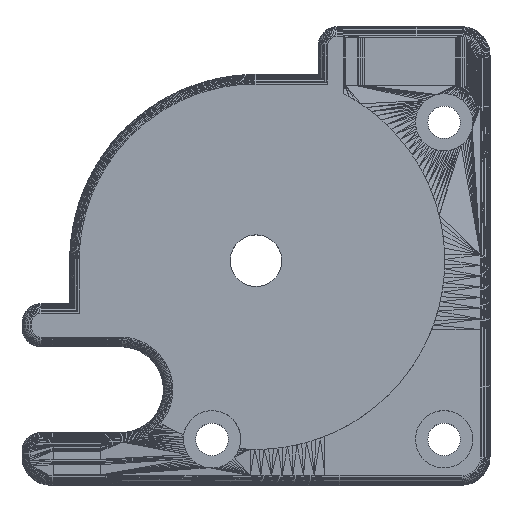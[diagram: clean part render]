
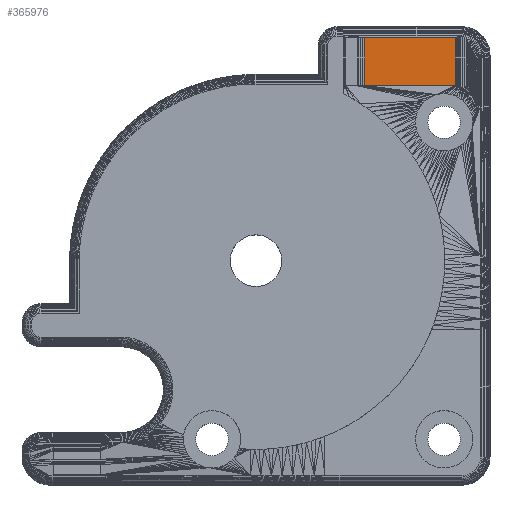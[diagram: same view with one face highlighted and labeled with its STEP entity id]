
A CAD part, top view. The second image highlights one B-rep face of the part: STEP entity #365976.
In plain terms, the highlighted planar face has unit normal (0, 0, 1).
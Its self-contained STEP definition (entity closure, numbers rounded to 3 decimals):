
#60044 = VERTEX_POINT('',#60045);
#60045 = CARTESIAN_POINT('',(135.363,140.35,
    7.151));
#60059 = PLANE('',#60060);
#60060 = AXIS2_PLACEMENT_3D('',#60061,#60062,#60063);
#60061 = CARTESIAN_POINT('',(135.17,140.35,
    7.151));
#60062 = DIRECTION('',(0.,0.,1.));
#60063 = DIRECTION('',(1.,0.,0.));
#60085 = PLANE('',#60086);
#60086 = AXIS2_PLACEMENT_3D('',#60087,#60088,#60089);
#60087 = CARTESIAN_POINT('',(145.5,140.631,7.114));
#60088 = DIRECTION('',(-0.,0.131,0.991));
#60089 = DIRECTION('',(0.,0.991,-0.131));
#60130 = EDGE_CURVE('',#60044,#60131,#60133,.T.);
#60131 = VERTEX_POINT('',#60132);
#60132 = CARTESIAN_POINT('',(144.911,140.35,
    7.151));
#60133 = SURFACE_CURVE('',#60134,(#60138,#60145),.PCURVE_S1.);
#60134 = LINE('',#60135,#60136);
#60135 = CARTESIAN_POINT('',(135.363,140.35,
    7.151));
#60136 = VECTOR('',#60137,1.);
#60137 = DIRECTION('',(1.,0.,0.));
#60138 = PCURVE('',#60085,#60139);
#60139 = DEFINITIONAL_REPRESENTATION('',(#60140),#60144);
#60140 = LINE('',#60141,#60142);
#60141 = CARTESIAN_POINT('',(-0.283,10.137));
#60142 = VECTOR('',#60143,1.);
#60143 = DIRECTION('',(0.,-1.));
#60144 = ( GEOMETRIC_REPRESENTATION_CONTEXT(2) 
PARAMETRIC_REPRESENTATION_CONTEXT() REPRESENTATION_CONTEXT('2D SPACE',''
  ) );
#60145 = PCURVE('',#60146,#60151);
#60146 = PLANE('',#60147);
#60147 = AXIS2_PLACEMENT_3D('',#60148,#60149,#60150);
#60148 = CARTESIAN_POINT('',(144.911,140.35,
    7.151));
#60149 = DIRECTION('',(0.,-0.,1.));
#60150 = DIRECTION('',(1.,0.,0.));
#60151 = DEFINITIONAL_REPRESENTATION('',(#60152),#60156);
#60152 = LINE('',#60153,#60154);
#60153 = CARTESIAN_POINT('',(-9.548,0.));
#60154 = VECTOR('',#60155,1.);
#60155 = DIRECTION('',(1.,0.));
#60156 = ( GEOMETRIC_REPRESENTATION_CONTEXT(2) 
PARAMETRIC_REPRESENTATION_CONTEXT() REPRESENTATION_CONTEXT('2D SPACE',''
  ) );
#60203 = PLANE('',#60204);
#60204 = AXIS2_PLACEMENT_3D('',#60205,#60206,#60207);
#60205 = CARTESIAN_POINT('',(144.911,140.35,
    7.151));
#60206 = DIRECTION('',(0.,-0.,1.));
#60207 = DIRECTION('',(1.,0.,0.));
#231168 = VERTEX_POINT('',#231169);
#231169 = CARTESIAN_POINT('',(144.911,135.35,
    7.151));
#231236 = PLANE('',#231237);
#231237 = AXIS2_PLACEMENT_3D('',#231238,#231239,#231240);
#231238 = CARTESIAN_POINT('',(144.911,135.35,
    7.151));
#231239 = DIRECTION('',(0.,0.131,0.991));
#231240 = DIRECTION('',(0.,0.991,-0.131));
#231444 = VERTEX_POINT('',#231445);
#231445 = CARTESIAN_POINT('',(135.363,135.35,
    7.151));
#232210 = EDGE_CURVE('',#231168,#231444,#232211,.T.);
#232211 = SURFACE_CURVE('',#232212,(#232216,#232223),.PCURVE_S1.);
#232212 = LINE('',#232213,#232214);
#232213 = CARTESIAN_POINT('',(144.911,135.35,
    7.151));
#232214 = VECTOR('',#232215,1.);
#232215 = DIRECTION('',(-1.,0.,0.));
#232216 = PCURVE('',#231236,#232217);
#232217 = DEFINITIONAL_REPRESENTATION('',(#232218),#232222);
#232218 = LINE('',#232219,#232220);
#232219 = CARTESIAN_POINT('',(0.,0.));
#232220 = VECTOR('',#232221,1.);
#232221 = DIRECTION('',(0.,1.));
#232222 = ( GEOMETRIC_REPRESENTATION_CONTEXT(2) 
PARAMETRIC_REPRESENTATION_CONTEXT() REPRESENTATION_CONTEXT('2D SPACE',''
  ) );
#232223 = PCURVE('',#60146,#232224);
#232224 = DEFINITIONAL_REPRESENTATION('',(#232225),#232229);
#232225 = LINE('',#232226,#232227);
#232226 = CARTESIAN_POINT('',(0.,-5.));
#232227 = VECTOR('',#232228,1.);
#232228 = DIRECTION('',(-1.,0.));
#232229 = ( GEOMETRIC_REPRESENTATION_CONTEXT(2) 
PARAMETRIC_REPRESENTATION_CONTEXT() REPRESENTATION_CONTEXT('2D SPACE',''
  ) );
#365953 = EDGE_CURVE('',#231168,#60131,#365954,.T.);
#365954 = SURFACE_CURVE('',#365955,(#365959,#365966),.PCURVE_S1.);
#365955 = LINE('',#365956,#365957);
#365956 = CARTESIAN_POINT('',(144.911,135.35,
    7.151));
#365957 = VECTOR('',#365958,1.);
#365958 = DIRECTION('',(0.,1.,0.));
#365959 = PCURVE('',#60203,#365960);
#365960 = DEFINITIONAL_REPRESENTATION('',(#365961),#365965);
#365961 = LINE('',#365962,#365963);
#365962 = CARTESIAN_POINT('',(0.,-5.));
#365963 = VECTOR('',#365964,1.);
#365964 = DIRECTION('',(0.,1.));
#365965 = ( GEOMETRIC_REPRESENTATION_CONTEXT(2) 
PARAMETRIC_REPRESENTATION_CONTEXT() REPRESENTATION_CONTEXT('2D SPACE',''
  ) );
#365966 = PCURVE('',#60146,#365967);
#365967 = DEFINITIONAL_REPRESENTATION('',(#365968),#365972);
#365968 = LINE('',#365969,#365970);
#365969 = CARTESIAN_POINT('',(0.,-5.));
#365970 = VECTOR('',#365971,1.);
#365971 = DIRECTION('',(0.,1.));
#365972 = ( GEOMETRIC_REPRESENTATION_CONTEXT(2) 
PARAMETRIC_REPRESENTATION_CONTEXT() REPRESENTATION_CONTEXT('2D SPACE',''
  ) );
#365976 = ADVANCED_FACE('',(#365977),#60146,.T.);
#365977 = FACE_BOUND('',#365978,.T.);
#365978 = EDGE_LOOP('',(#365979,#365980,#366001,#366002));
#365979 = ORIENTED_EDGE('',*,*,#60130,.F.);
#365980 = ORIENTED_EDGE('',*,*,#365981,.T.);
#365981 = EDGE_CURVE('',#60044,#231444,#365982,.T.);
#365982 = SURFACE_CURVE('',#365983,(#365987,#365994),.PCURVE_S1.);
#365983 = LINE('',#365984,#365985);
#365984 = CARTESIAN_POINT('',(135.363,140.35,
    7.151));
#365985 = VECTOR('',#365986,1.);
#365986 = DIRECTION('',(0.,-1.,0.));
#365987 = PCURVE('',#60146,#365988);
#365988 = DEFINITIONAL_REPRESENTATION('',(#365989),#365993);
#365989 = LINE('',#365990,#365991);
#365990 = CARTESIAN_POINT('',(-9.548,0.));
#365991 = VECTOR('',#365992,1.);
#365992 = DIRECTION('',(0.,-1.));
#365993 = ( GEOMETRIC_REPRESENTATION_CONTEXT(2) 
PARAMETRIC_REPRESENTATION_CONTEXT() REPRESENTATION_CONTEXT('2D SPACE',''
  ) );
#365994 = PCURVE('',#60059,#365995);
#365995 = DEFINITIONAL_REPRESENTATION('',(#365996),#366000);
#365996 = LINE('',#365997,#365998);
#365997 = CARTESIAN_POINT('',(0.193,0.));
#365998 = VECTOR('',#365999,1.);
#365999 = DIRECTION('',(0.,-1.));
#366000 = ( GEOMETRIC_REPRESENTATION_CONTEXT(2) 
PARAMETRIC_REPRESENTATION_CONTEXT() REPRESENTATION_CONTEXT('2D SPACE',''
  ) );
#366001 = ORIENTED_EDGE('',*,*,#232210,.F.);
#366002 = ORIENTED_EDGE('',*,*,#365953,.T.);
